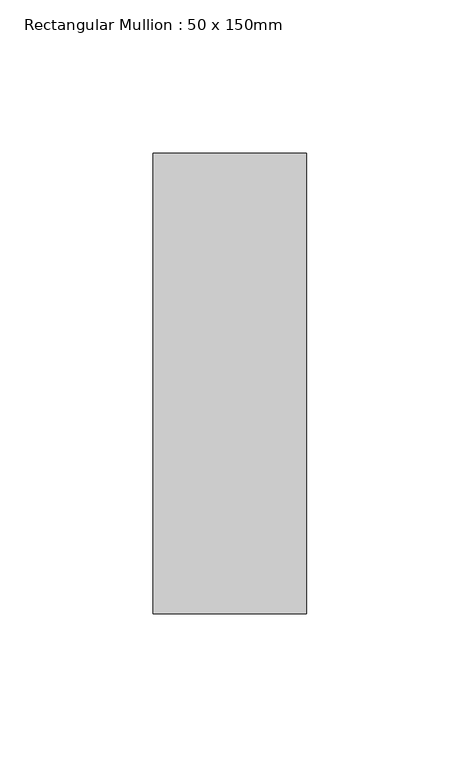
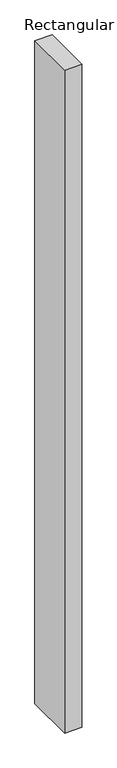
"""IFC4 building model written with IfcOpenShell, lengths in millimetres: member geometry, Rectangular Mullion : 50 x 150mm."""

from ifc_helpers import new_model, si_unit, frame, origin, place, context, project, spatial, polyline, outline, extrude, source, transform, mapped, element, save


def rectangular_mullion_50_x_150mm_b9c4b528(model_context):
    return source(origin(), model_context, "Body", "SweptSolid", [
        extrude(outline(polyline([(0.0, 75.0), (0.0, -75.0), (-50.0, -75.0), (-50.0, 75.0), (0.0, 75.0)])), frame((0.0, 0.0, -2047.2919866), z_axis=(0.0, 0.0, 1.0), x_axis=(1.0, 0.0, 0.0)), (0.0, 0.0, 1.0), 2047.2919866),
    ])


if __name__ == "__main__":
    model = new_model("IFC4")
    model_context = context("Model", 3, world=origin())
    ifc_project = project(units=[si_unit("LENGTHUNIT", "METRE", prefix="MILLI")], contexts=[model_context])
    site = spatial("IfcSite", under=ifc_project)
    building = spatial("IfcBuilding", under=site)
    placement = place(None, origin())
    rectangular_mullion_50_x_150mm_shape = rectangular_mullion_50_x_150mm_b9c4b528(model_context)
    element("IfcMember", 1, ObjectType="Rectangular Mullion : 50 x 150mm", at=placement, inside=building, context=model_context, shape_type="MappedRepresentation", body=[
        mapped(rectangular_mullion_50_x_150mm_shape, transform((0.0, 0.0, 0.0), x_axis=(1.0, 0.0, 0.0), y_axis=(0.0, 1.0, 0.0), z_axis=(0.0, 0.0, 1.0))),
    ])
    save(model, "model.ifc")
